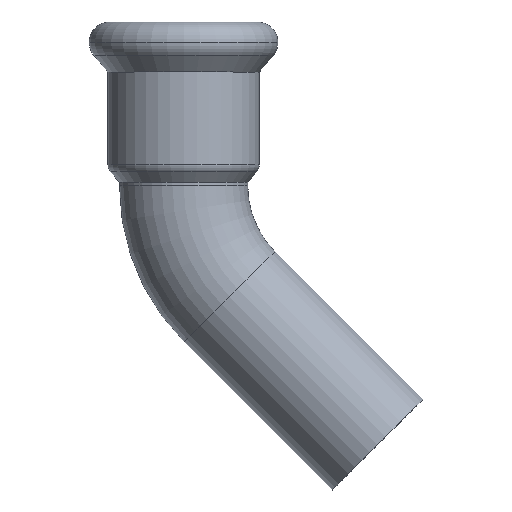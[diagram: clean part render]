
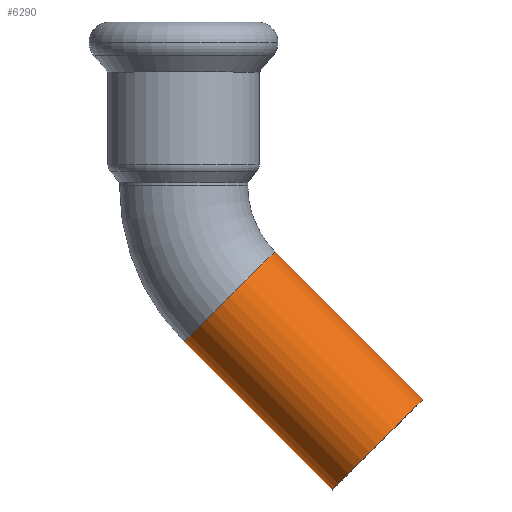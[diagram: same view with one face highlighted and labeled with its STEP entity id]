
A CAD part, top view. The second image highlights one B-rep face of the part: STEP entity #6290.
In plain terms, the highlighted cylindrical face has radius 9 mm (diameter 18 mm), a partial arc.
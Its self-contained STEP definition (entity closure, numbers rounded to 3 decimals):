
#4070=CARTESIAN_POINT('',(-202.897,20.213,
0.));
#4080=VERTEX_POINT('',#4070);
#4290=CARTESIAN_POINT('',(-190.169,32.941,
0.));
#4300=VERTEX_POINT('',#4290);
#4330=CARTESIAN_POINT('',(-196.533,26.577,0.));
#4340=DIRECTION('',(0.707,-0.707,0.));
#4350=DIRECTION('',(-0.707,-0.707,0.));
#4360=AXIS2_PLACEMENT_3D('',#4330,#4340,#4350);
#4370=CIRCLE('',#4360,9.);
#4380=EDGE_CURVE('',#4300,#4080,#4370,.T.);
#4480=CARTESIAN_POINT('',(-175.753,5.797,0.));
#4490=DIRECTION('',(-0.707,0.707,0.));
#4500=DIRECTION('',(-0.707,-0.707,0.));
#4510=AXIS2_PLACEMENT_3D('',#4480,#4490,#4500);
#4520=CIRCLE('',#4510,9.);
#4530=CARTESIAN_POINT('',(-182.117,-0.567,0.));
#4540=VERTEX_POINT('',#4530);
#4550=CARTESIAN_POINT('',(-169.389,12.161,
0.));
#4560=VERTEX_POINT('',#4550);
#4570=EDGE_CURVE('',#4540,#4560,#4520,.T.);
#5390=CARTESIAN_POINT('',(-196.533,26.577,0.));
#5400=DIRECTION('',(-0.707,0.707,0.));
#5410=DIRECTION('',(-0.707,-0.707,0.));
#5420=AXIS2_PLACEMENT_3D('',#5390,#5400,#5410);
#5430=CYLINDRICAL_SURFACE('',#5420,9.);
#5440=CARTESIAN_POINT('',(-190.169,32.941,
0.));
#5450=DIRECTION('',(-0.707,0.707,0.));
#5460=VECTOR('',#5450,1.);
#5470=LINE('',#5440,#5460);
#5480=EDGE_CURVE('',#4560,#4300,#5470,.T.);
#5520=CARTESIAN_POINT('',(-202.897,20.213,0.));
#5530=DIRECTION('',(-0.707,0.707,0.));
#5540=VECTOR('',#5530,1.);
#5550=LINE('',#5520,#5540);
#5560=EDGE_CURVE('',#4540,#4080,#5550,.T.);
#6230=ORIENTED_EDGE('',*,*,#5480,.T.);
#6240=ORIENTED_EDGE('',*,*,#4570,.T.);
#6250=ORIENTED_EDGE('',*,*,#5560,.F.);
#6260=ORIENTED_EDGE('',*,*,#4380,.T.);
#6270=EDGE_LOOP('',(#6260,#6250,#6240,#6230));
#6280=FACE_OUTER_BOUND('',#6270,.T.);
#6290=ADVANCED_FACE('',(#6280),#5430,.T.);
